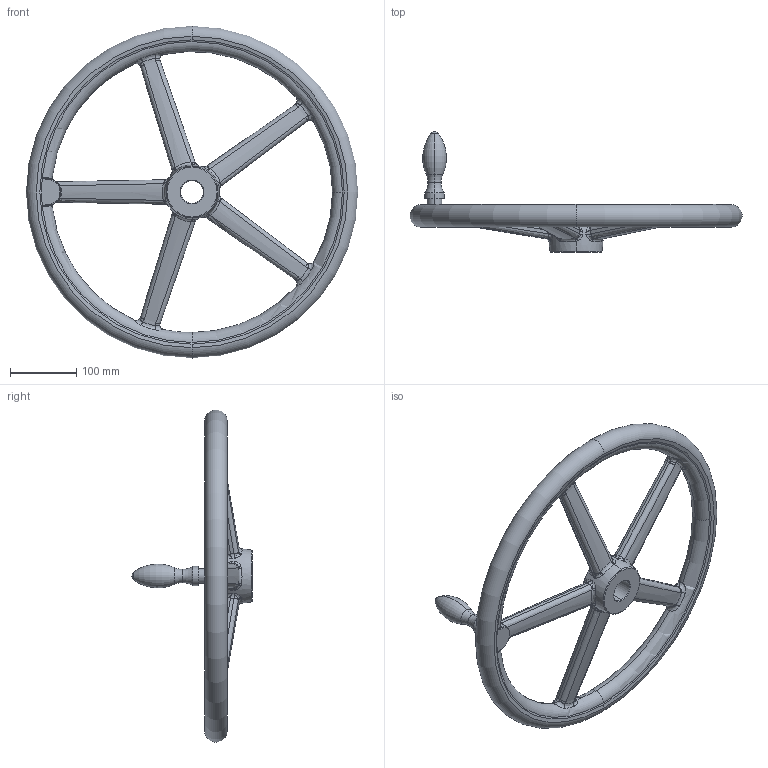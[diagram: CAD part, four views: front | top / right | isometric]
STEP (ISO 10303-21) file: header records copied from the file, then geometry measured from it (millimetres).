
FILE_DESCRIPTION (( 'STEP AP203' ), '1' );
FILE_NAME ('din950_f4_500x34.step', '2010-03-23T10:37:57', ( '_' ), ( '_' ), 'SwSTEP 2.0', 'SolidWorks 2010', '' );
FILE_SCHEMA (( 'CONFIG_CONTROL_DESIGN' ));
Length unit declared in the file: millimetre
Products named in the file (1): din950_f4_500x34
Bounding box: 499.87 x 182 x 499.87 mm (x, y, z)
Volume: 2289942.5 mm3; surface area: 275149.2 mm2
Topology: 1 solids, 1 shells, 286 faces, 708 edges, 373 vertices
Faces by surface type: bspline 218, torus 28, cone 16, plane 15, cylinder 7, sphere 2
Entity records: 64158 total; most frequent: CARTESIAN_POINT 58878, ORIENTED_EDGE 1328, DIRECTION 670, EDGE_CURVE 664, B_SPLINE_CURVE_WITH_KNOTS 387, VERTEX_POINT 373, AXIS2_PLACEMENT_3D 324, EDGE_LOOP 291
